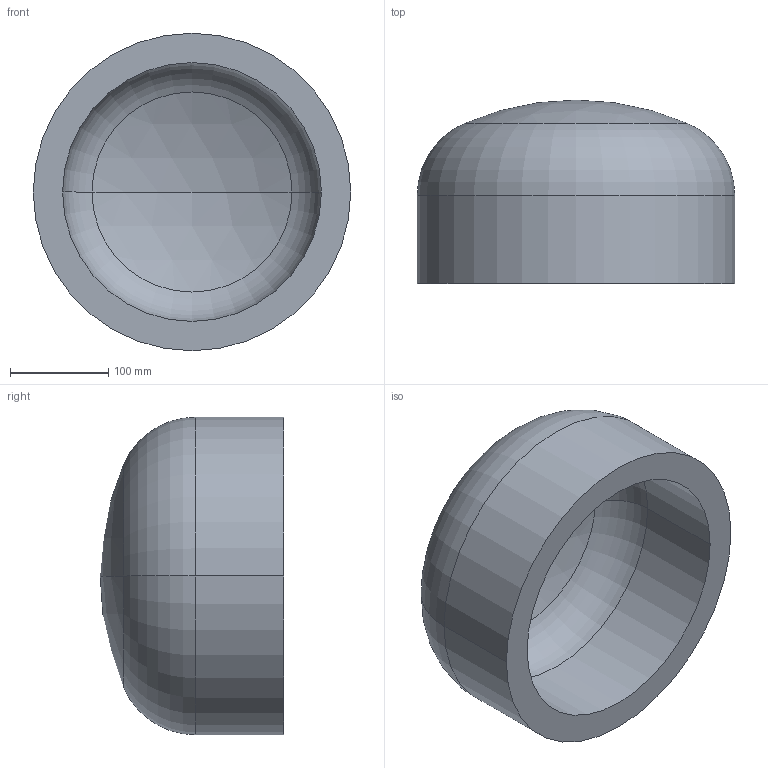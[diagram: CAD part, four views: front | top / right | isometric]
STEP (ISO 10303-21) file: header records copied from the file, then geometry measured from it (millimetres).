
FILE_DESCRIPTION (( 'STEP AP203' ), '1' );
FILE_NAME ('DIN 28013 Korbbogenform_-_Boden DIN 28013 - 323,9 x 90 - I - s=30.step', '2016-07-01T07:45:11', ( '' ), ( '' ), 'SwSTEP 2.0', 'SolidWorks 2013', '' );
FILE_SCHEMA (( 'CONFIG_CONTROL_DESIGN' ));
Length unit declared in the file: millimetre
Products named in the file (1): DIN 28013 Korbbogenform_-_Boden DIN 28013 - 323,9 x 90 - I - s=30
Bounding box: 323.9 x 187.18 x 323.9 mm (x, y, z)
Volume: 5547459.4 mm3; surface area: 399415 mm2
Topology: 1 solids, 1 shells, 13 faces, 24 edges, 14 vertices
Faces by surface type: torus 4, cylinder 4, sphere 4, plane 1
Entity records: 407 total; most frequent: DIRECTION 72, CARTESIAN_POINT 52, ORIENTED_EDGE 48, AXIS2_PLACEMENT_3D 34, EDGE_CURVE 24, CIRCLE 20, EDGE_LOOP 14, VERTEX_POINT 14
